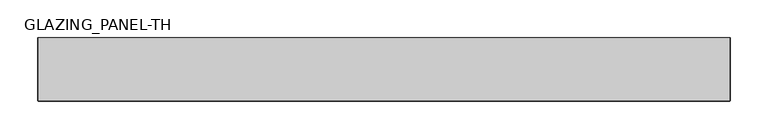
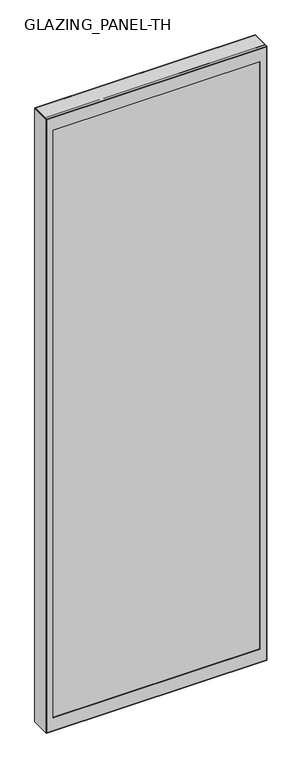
"""IFC4 building model written with IfcOpenShell, lengths in millimetres: plate geometry, GLAZING_PANEL-TH : 85-MVDVAL."""

from ifc_helpers import new_model, si_unit, frame, origin, origin_with_axes, place, context, project, spatial, polyline, outline, extrude, source, transform, mapped, element, save


def glazing_panel_th_1311bee8(model_context):
    return source(origin(), model_context, "Body", "SweptSolid", [
        extrude(outline(polyline([(438.2, -37.5), (-438.2, -37.5), (-438.2, -31.5), (438.2, -31.5), (438.2, -37.5)])), frame((0.0, 0.0, 46.8), z_axis=(0.0, 0.0, 1.0), x_axis=(1.0, 0.0, 0.0)), (0.0, 0.0, 1.0), 2591.4),
        extrude(outline(polyline([(438.2, 29.5), (-438.2, 29.5), (-438.2, 37.5), (438.2, 37.5), (438.2, 29.5)])), frame((0.0, 0.0, 46.8), z_axis=(0.0, 0.0, 1.0), x_axis=(1.0, 0.0, 0.0)), (0.0, 0.0, 1.0), 2591.4),
        extrude(outline(polyline([(2638.2, 438.2), (2638.2, -438.2), (46.8, -438.2), (46.8, 438.2), (2638.2, 438.2)]), holes=[polyline([(2628.2, -428.2), (2628.2, 428.2), (56.8, 428.2), (56.8, -428.2), (2628.2, -428.2)])]), frame((0.0, 37.5, 0.0), z_axis=(0.0, 1.0, 0.0), x_axis=(0.0, 0.0, 1.0)), (0.0, 0.0, 1.0), 2.0),
        extrude(outline(polyline([(2638.2, 438.2), (2638.2, -438.2), (46.8, -438.2), (46.8, 438.2), (2638.2, 438.2)]), holes=[polyline([(2628.2, -428.2), (2628.2, 428.2), (56.8, 428.2), (56.8, -428.2), (2628.2, -428.2)])]), frame((0.0, 27.5, 0.0), z_axis=(0.0, 1.0, 0.0), x_axis=(0.0, 0.0, 1.0)), (0.0, 0.0, 1.0), 2.0),
        extrude(outline(polyline([(2638.2, 438.2), (2638.2, -438.2), (46.8, -438.2), (46.8, 438.2), (2638.2, 438.2)]), holes=[polyline([(2628.2, -428.2), (2628.2, 428.2), (56.8, 428.2), (56.8, -428.2), (2628.2, -428.2)])]), frame((0.0, -31.5, 0.0), z_axis=(0.0, 1.0, 0.0), x_axis=(0.0, 0.0, 1.0)), (0.0, 0.0, 1.0), 2.0),
        extrude(outline(polyline([(2638.2, 438.2), (2638.2, -438.2), (46.8, -438.2), (46.8, 438.2), (2638.2, 438.2)]), holes=[polyline([(2628.2, -428.2), (2628.2, 428.2), (56.8, 428.2), (56.8, -428.2), (2628.2, -428.2)])]), frame((0.0, -39.5, 0.0), z_axis=(0.0, 1.0, 0.0), x_axis=(0.0, 0.0, 1.0)), (0.0, 0.0, 1.0), 2.0),
        extrude(outline(polyline([(2684.2, 456.2), (2684.2, -456.2), (0.8, -456.2), (0.8, 456.2), (2684.2, 456.2)]), holes=[polyline([(2628.2, -428.2), (2628.2, 428.2), (56.8, 428.2), (56.8, -428.2), (2628.2, -428.2)])]), frame((0.0, 39.5, 0.0), z_axis=(0.0, 1.0, 0.0), x_axis=(0.0, 0.0, 1.0)), (0.0, 0.0, 1.0), 2.0),
        extrude(outline(polyline([(2684.2, 456.2), (2684.2, -456.2), (0.8, -456.2), (0.8, 456.2), (2684.2, 456.2)]), holes=[polyline([(2628.2, -428.2), (2628.2, 428.2), (56.8, 428.2), (56.8, -428.2), (2628.2, -428.2)])]), frame((0.0, -29.5, 0.0), z_axis=(0.0, 1.0, 0.0), x_axis=(0.0, 0.0, 1.0)), (0.0, 0.0, 1.0), 57.0),
        extrude(outline(polyline([(2684.2, 456.2), (2684.2, -456.2), (0.8, -456.2), (0.8, 456.2), (2684.2, 456.2)]), holes=[polyline([(2628.2, -428.2), (2628.2, 428.2), (56.8, 428.2), (56.8, -428.2), (2628.2, -428.2)])]), frame((0.0, -41.5, 0.0), z_axis=(0.0, 1.0, 0.0), x_axis=(0.0, 0.0, 1.0)), (0.0, 0.0, 1.0), 2.0),
        extrude(outline(polyline([(456.2, 41.5), (456.2, -41.5), (-456.2, -41.5), (-456.2, 41.5), (456.2, 41.5)])), frame((0.0, 0.0, 2684.2), z_axis=(0.0, 0.0, 1.0), x_axis=(1.0, 0.0, 0.0)), (0.0, 0.0, 1.0), 0.8),
        extrude(outline(polyline([(456.2, 41.5), (456.2, -41.5), (-456.2, -41.5), (-456.2, 41.5), (456.2, 41.5)])), origin_with_axes(), (0.0, 0.0, 1.0), 0.8),
        extrude(outline(polyline([(-456.2, -41.5), (-457.0, -41.5), (-457.0, 41.5), (-456.2, 41.5), (-456.2, -41.5)])), origin_with_axes(), (0.0, 0.0, 1.0), 2685.0),
        extrude(outline(polyline([(457.0, -41.5), (456.2, -41.5), (456.2, 41.5), (457.0, 41.5), (457.0, -41.5)])), origin_with_axes(), (0.0, 0.0, 1.0), 2685.0),
    ])


if __name__ == "__main__":
    model = new_model("IFC4")
    model_context = context("Model", 3, world=origin())
    ifc_project = project(units=[si_unit("LENGTHUNIT", "METRE", prefix="MILLI")], contexts=[model_context])
    site = spatial("IfcSite", under=ifc_project)
    building = spatial("IfcBuilding", under=site)
    placement = place(None, origin())
    glazing_panel_th_shape = glazing_panel_th_1311bee8(model_context)
    element("IfcPlate", 1, ObjectType="GLAZING_PANEL-TH : 85-MVDVAL", at=placement, inside=building, context=model_context, shape_type="MappedRepresentation", body=[
        mapped(glazing_panel_th_shape, transform((0.0, 0.0, 0.0), x_axis=(1.0, 0.0, 0.0), y_axis=(0.0, 1.0, 0.0), z_axis=(0.0, 0.0, 1.0))),
    ])
    save(model, "model.ifc")
